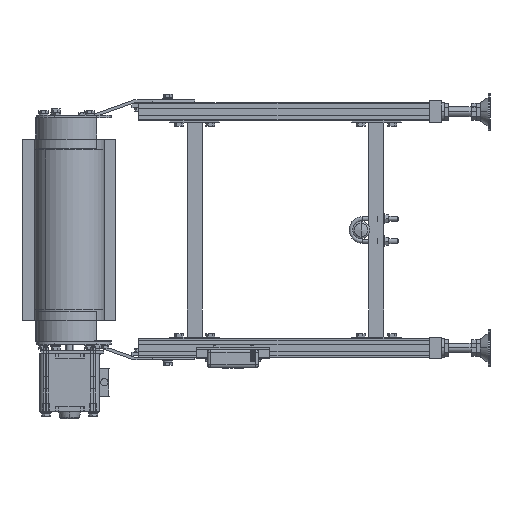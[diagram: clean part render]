
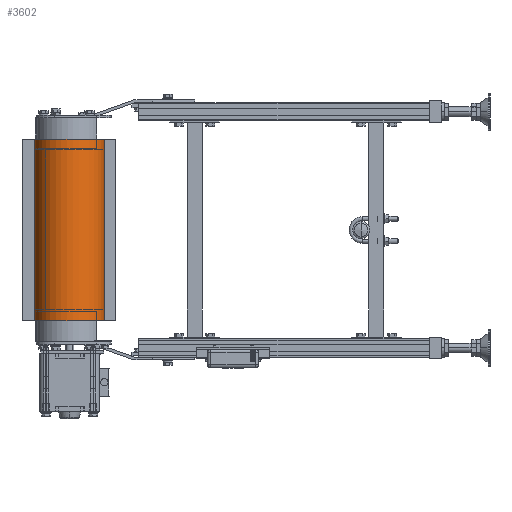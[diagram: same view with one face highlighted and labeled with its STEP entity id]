
A CAD part, left-side view. The second image highlights one B-rep face of the part: STEP entity #3602.
In plain terms, the highlighted cylindrical face has radius 58.35 mm (diameter 116.7 mm), a partial arc.
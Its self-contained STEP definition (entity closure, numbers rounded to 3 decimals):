
#3602=ADVANCED_FACE('',(#22829),#22828,.T.);
#22828=CYLINDRICAL_SURFACE('',#35500,58.35);
#22829=FACE_OUTER_BOUND('',#35501,.T.);
#35497=CARTESIAN_POINT('',(57.5,-56.,150.));
#35498=DIRECTION('',(0.,0.,1.));
#35499=DIRECTION('',(1.,-0.003,0.));
#35500=AXIS2_PLACEMENT_3D('',#35497,#35498,#35499);
#35501=EDGE_LOOP('',(#45931,#45932,#45933,#45934));
#45931=ORIENTED_EDGE('',*,*,#51779,.T.);
#45932=ORIENTED_EDGE('',*,*,#51657,.F.);
#45933=ORIENTED_EDGE('',*,*,#51594,.F.);
#45934=ORIENTED_EDGE('',*,*,#51551,.T.);
#51551=EDGE_CURVE('',#82162,#82155,#82163,.T.);
#51594=EDGE_CURVE('',#82162,#82462,#82463,.T.);
#51657=EDGE_CURVE('',#82462,#82899,#82900,.T.);
#51779=EDGE_CURVE('',#82155,#82899,#83710,.T.);
#82155=VERTEX_POINT('',#104916);
#82162=VERTEX_POINT('',#104920);
#82163=LINE('',#104921,#104922);
#82462=VERTEX_POINT('',#105092);
#82463=CIRCLE('',#105096,58.35);
#82899=VERTEX_POINT('',#105343);
#82900=LINE('',#105344,#105345);
#83710=CIRCLE('',#105794,58.35);
#104916=CARTESIAN_POINT('',(57.497,2.35,-150.));
#104920=CARTESIAN_POINT('',(57.497,2.35,150.));
#104921=CARTESIAN_POINT('',(57.497,2.35,150.));
#104922=VECTOR('',#104923,300.);
#104923=DIRECTION('',(0.,0.,-1.));
#105092=CARTESIAN_POINT('',(58.818,-114.335,150.));
#105093=CARTESIAN_POINT('',(57.5,-56.,150.));
#105094=DIRECTION('',(0.,0.,1.));
#105095=DIRECTION('',(0.,1.,0.));
#105096=AXIS2_PLACEMENT_3D('',#105093,#105094,#105095);
#105343=CARTESIAN_POINT('',(58.818,-114.335,-150.));
#105344=CARTESIAN_POINT('',(58.818,-114.335,150.));
#105345=VECTOR('',#105346,300.);
#105346=DIRECTION('',(0.,0.,-1.));
#105791=CARTESIAN_POINT('',(57.5,-56.,-150.));
#105792=DIRECTION('',(0.,0.,1.));
#105793=DIRECTION('',(0.,1.,0.));
#105794=AXIS2_PLACEMENT_3D('',#105791,#105792,#105793);
